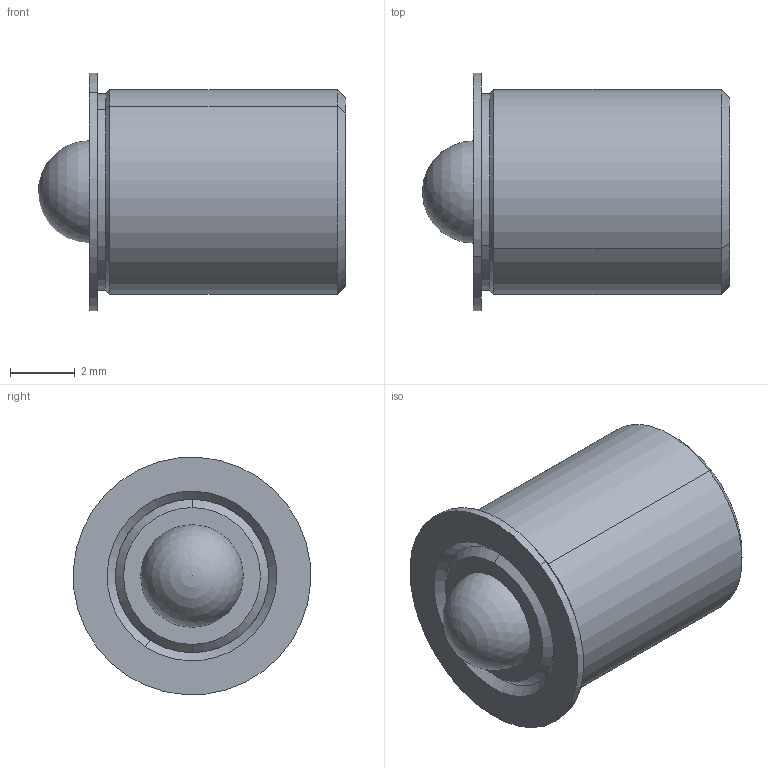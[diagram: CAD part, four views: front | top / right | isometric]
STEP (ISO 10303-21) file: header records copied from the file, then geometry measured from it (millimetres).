
FILE_DESCRIPTION (( 'STEP AP214' ), '1' );
FILE_NAME ('TSB187-100-375_312.STEP', '2013-03-13T13:12:33', ( 'workpc' ), ( 'Microsoft' ), 'SwSTEP 2.0', 'SolidWorks 2013', '' );
FILE_SCHEMA (( 'AUTOMOTIVE_DESIGN' ));
Length unit declared in the file: inch
Products named in the file (1): TSB187-100-375_312
Bounding box: 9.53 x 7.35 x 7.35 mm (x, y, z)
Surface area: 509.4 mm2 (no closed solid volume)
Topology: 0 solids, 3 shells, 35 faces, 79 edges, 49 vertices
Faces by surface type: cone 12, plane 11, cylinder 10, sphere 2
Entity records: 1418 total; most frequent: DIRECTION 180, CARTESIAN_POINT 156, ORIENTED_EDGE 140, EDGE_CURVE 74, AXIS2_PLACEMENT_3D 70, VERTEX_POINT 46, EDGE_LOOP 40, VECTOR 40
